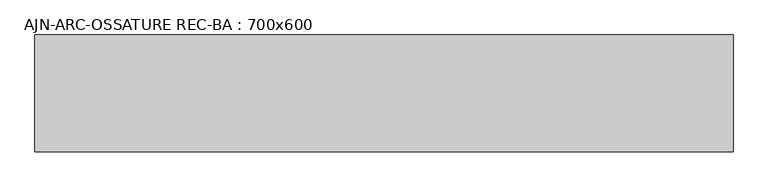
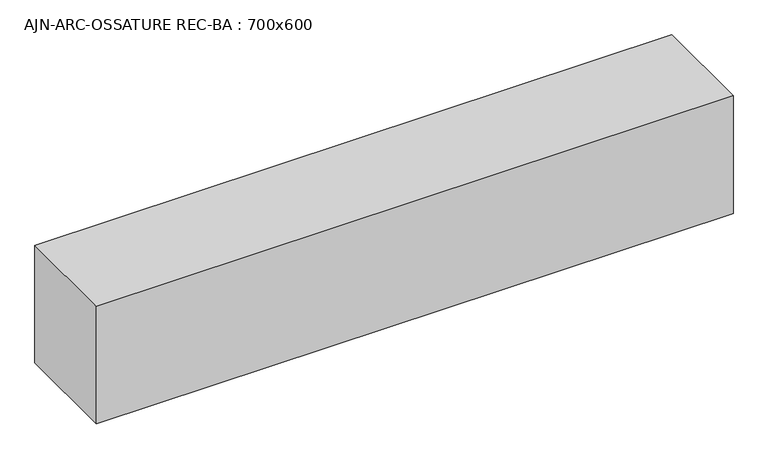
"""IFC4 building model written with IfcOpenShell, lengths in millimetres: beam geometry, AJN-ARC-OSSATURE REC-BA : 700x600."""

from ifc_helpers import new_model, si_unit, frame, origin, place, context, project, spatial, polyline, outline, extrude, source, transform, mapped, element, save


def ajn_arc_ossature_rec_ba_700x600_74f247c5(model_context):
    return source(origin(), model_context, "Body", "SweptSolid", [
        extrude(outline(polyline([(1487.3, 300.0), (1487.3, -300.0), (-2100.0, -300.0), (-2100.0, 300.0), (1487.3, 300.0)])), frame((0.0, 0.0, -350.0), z_axis=(0.0, 0.0, 1.0), x_axis=(1.0, 0.0, 0.0)), (0.0, 0.0, 1.0), 700.0),
    ])


if __name__ == "__main__":
    model = new_model("IFC4")
    model_context = context("Model", 3, world=origin())
    ifc_project = project(units=[si_unit("LENGTHUNIT", "METRE", prefix="MILLI")], contexts=[model_context])
    site = spatial("IfcSite", under=ifc_project)
    building = spatial("IfcBuilding", under=site)
    placement = place(None, origin())
    ajn_arc_ossature_rec_ba_700x600_shape = ajn_arc_ossature_rec_ba_700x600_74f247c5(model_context)
    element("IfcBeam", 1, ObjectType="AJN-ARC-OSSATURE REC-BA : 700x600", at=placement, inside=building, context=model_context, shape_type="MappedRepresentation", body=[
        mapped(ajn_arc_ossature_rec_ba_700x600_shape, transform((0.0, 0.0, 0.0), x_axis=(1.0, 0.0, 0.0), y_axis=(0.0, 1.0, 0.0), z_axis=(0.0, 0.0, 1.0))),
    ])
    save(model, "model.ifc")
